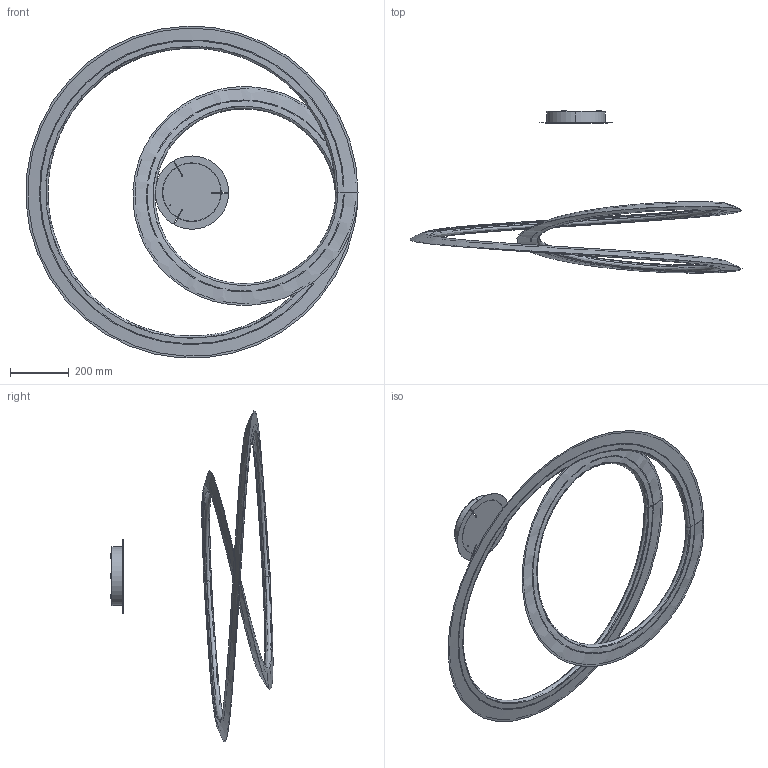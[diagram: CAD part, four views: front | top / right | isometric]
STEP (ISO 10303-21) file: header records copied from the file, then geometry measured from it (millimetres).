
FILE_DESCRIPTION (( 'STEP AP203' ), '1' );
FILE_NAME ('Kepler.STEP', '2016-10-26T14:00:19', ( '' ), ( '' ), 'SwSTEP 2.0', 'SolidWorks 2016', '' );
FILE_SCHEMA (( 'CONFIG_CONTROL_DESIGN' ));
Length unit declared in the file: millimetre
Products named in the file (4): elica_15-12-15; 010COM701210_Rosone Ø200 rovesciato_alya remote; 010COM701100_Piatto rosone Ø250 TAGLIATO; Kepler
Assembly tree (3 placements, depth 2):
  Kepler
    elica_15-12-15
    010COM701210_Rosone Ø200 rovesciato_alya remote
    010COM701100_Piatto rosone Ø250 TAGLIATO
Bounding box: 1131.52 x 553.2 x 1130.76 mm (x, y, z)
Volume: 2440609.6 mm3; surface area: 1931348.2 mm2
Topology: 6 solids, 6 shells, 191 faces, 466 edges, 295 vertices
Faces by surface type: cylinder 68, plane 43, bspline 36, torus 28, cone 16
Entity records: 18796 total; most frequent: CARTESIAN_POINT 13951, DIRECTION 954, ORIENTED_EDGE 932, EDGE_CURVE 466, AXIS2_PLACEMENT_3D 402, VERTEX_POINT 295, CIRCLE 241, EDGE_LOOP 229
